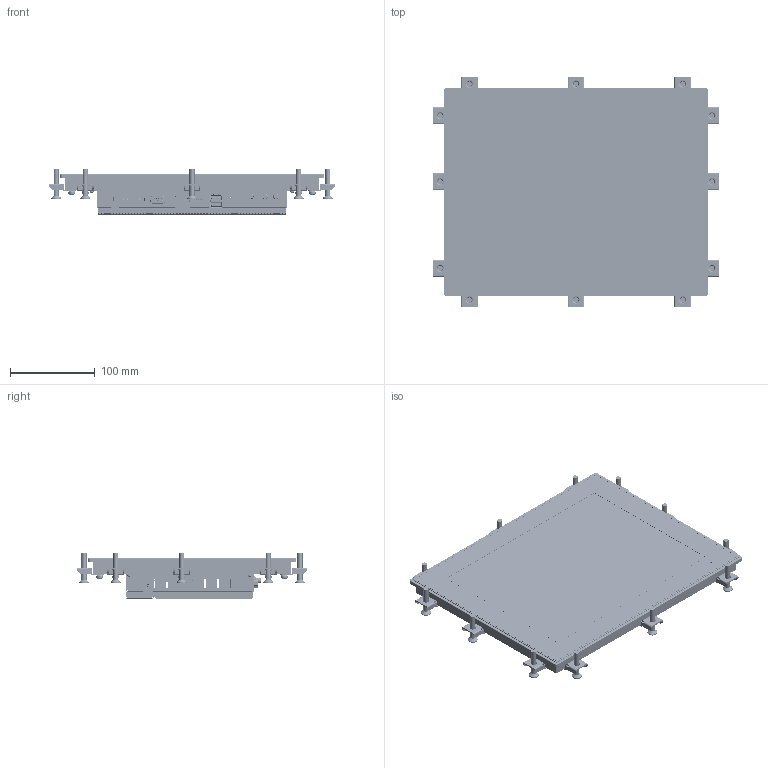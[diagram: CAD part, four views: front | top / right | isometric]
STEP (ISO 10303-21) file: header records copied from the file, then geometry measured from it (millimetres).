
FILE_DESCRIPTION((''),'2;1');
FILE_NAME('APL4C-121','2026-06-02T13:00:28',('gijyu181'),(''),'CREO PARAMETRIC BY PTC INC, 2018050','CREO PARAMETRIC BY PTC INC, 2018050','');
FILE_SCHEMA(('CONFIG_CONTROL_DESIGN','SHAPE_APPEARANCE_LAYERS_GROUPS'));
Products named in the file (1): APL4C-121
Bounding box: 337 x 271 x 53.5 mm (x, y, z)
Volume: 1149327.4 mm3; surface area: 749633.7 mm2
Topology: 52 solids, 133 shells, 24864 faces, 71515 edges, 47053 vertices
Faces by surface type: plane 16961, cylinder 5382, extrusion 1249, cone 531, bspline 308, torus 269, sphere 152, revolution 12
Entity records: 945984 total; most frequent: CARTESIAN_POINT 178176, ORIENTED_EDGE 142646, DIRECTION 128078, EDGE_CURVE 71397, VECTOR 56138, LINE 54889, VERTEX_POINT 47051, AXIS2_PLACEMENT_3D 35964
